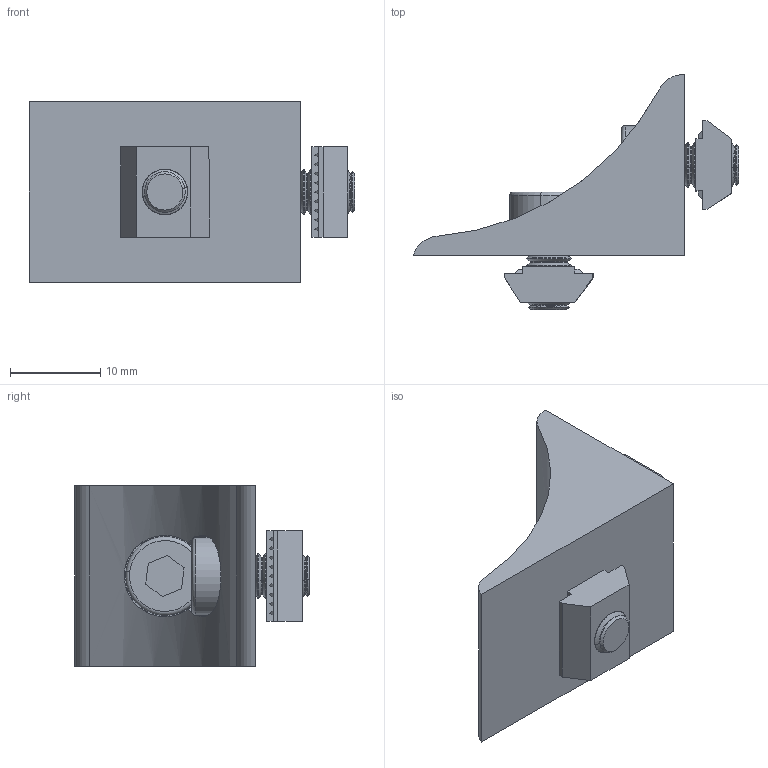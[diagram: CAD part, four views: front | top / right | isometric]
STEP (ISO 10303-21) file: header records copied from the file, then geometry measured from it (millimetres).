
FILE_DESCRIPTION (( 'STEP AP203' ), '1' );
FILE_NAME ('PV20x30-M5-IMC-As.STEP', '2011-07-25T11:20:47', ( '' ), ( '' ), 'SwSTEP 2.0', 'SolidWorks 2010', '' );
FILE_SCHEMA (( 'CONFIG_CONTROL_DESIGN' ));
Length unit declared in the file: millimetre
Products named in the file (4): PV20x30-M5-IMC-As; PV20x30-M5; PSM5; 0912D2__5__8-mattssons_0912D2__5__8-mattssons
Assembly tree (5 placements, depth 2):
  PV20x30-M5-IMC-As
    0912D2__5__8-mattssons_0912D2__5__8-mattssons  x2
    PV20x30-M5
    PSM5  x2
Bounding box: 36 x 26 x 20 mm (x, y, z)
Volume: 5194.1 mm3; surface area: 4102.9 mm2
Topology: 5 solids, 5 shells, 458 faces, 1125 edges, 682 vertices
Faces by surface type: plane 231, cone 88, torus 84, cylinder 55
Entity records: 7485 total; most frequent: CARTESIAN_POINT 1290, DIRECTION 1244, ORIENTED_EDGE 1170, EDGE_CURVE 585, AXIS2_PLACEMENT_3D 420, VECTOR 404, LINE 404, VERTEX_POINT 356
